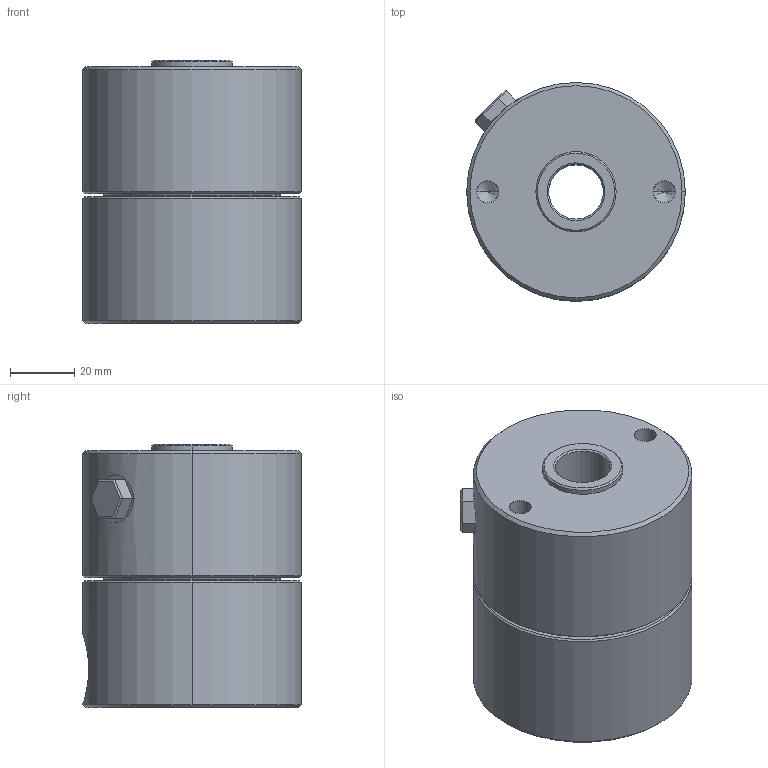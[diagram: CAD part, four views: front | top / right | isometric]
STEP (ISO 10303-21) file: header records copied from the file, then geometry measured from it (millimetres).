
FILE_DESCRIPTION (( 'STEP AP203' ), '1' );
FILE_NAME ('4610-311.STEP', '2016-01-29T10:18:10', ( '' ), ( '' ), 'SwSTEP 2.0', 'SolidWorks 2015', '' );
FILE_SCHEMA (( 'CONFIG_CONTROL_DESIGN' ));
Length unit declared in the file: millimetre
Products named in the file (1): 4610-311
Bounding box: 68 x 68 x 82 mm (x, y, z)
Volume: 267574 mm3; surface area: 32335.2 mm2
Topology: 1 solids, 2 shells, 74 faces, 160 edges, 91 vertices
Faces by surface type: cone 26, cylinder 22, plane 22, torus 4
Entity records: 2193 total; most frequent: CARTESIAN_POINT 505, DIRECTION 366, ORIENTED_EDGE 304, EDGE_CURVE 152, AXIS2_PLACEMENT_3D 144, VERTEX_POINT 91, EDGE_LOOP 85, LINE 78
